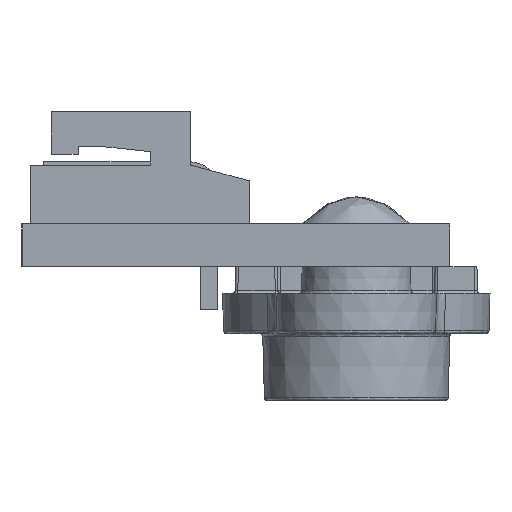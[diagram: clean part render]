
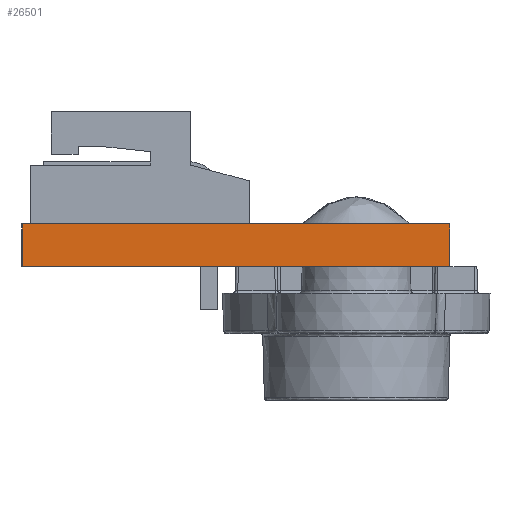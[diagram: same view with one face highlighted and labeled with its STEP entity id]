
A CAD part, left-side view. The second image highlights one B-rep face of the part: STEP entity #26501.
In plain terms, the highlighted planar face has unit normal (-1, 0, 0) as drawn and (1, 0, 0) by its records, which use the part's own axes.
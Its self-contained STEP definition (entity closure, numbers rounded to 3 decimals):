
#898 = VERTEX_POINT ( 'NONE', #10721 ) ;
#2692 = CARTESIAN_POINT ( 'NONE',  ( 14., 0.8, -8. ) ) ;
#3712 = ORIENTED_EDGE ( 'NONE', *, *, #22135, .F. ) ;
#4591 = DIRECTION ( 'NONE',  ( 0., 0., 1. ) ) ;
#4712 = CARTESIAN_POINT ( 'NONE',  ( 14., 0., 8. ) ) ;
#5015 = CARTESIAN_POINT ( 'NONE',  ( 14., 0., 0. ) ) ;
#6004 = ORIENTED_EDGE ( 'NONE', *, *, #16782, .T. ) ;
#8945 = VECTOR ( 'NONE', #11304, 1000. ) ;
#9641 = CARTESIAN_POINT ( 'NONE',  ( 14., 1.6, 8. ) ) ;
#10721 = CARTESIAN_POINT ( 'NONE',  ( 14., 1.6, -8. ) ) ;
#11304 = DIRECTION ( 'NONE',  ( 0., 1., 0. ) ) ;
#11680 = AXIS2_PLACEMENT_3D ( 'NONE', #25978, #21209, #4591 ) ;
#12300 = CARTESIAN_POINT ( 'NONE',  ( 14., 1.6, 8. ) ) ;
#12349 = EDGE_LOOP ( 'NONE', ( #6004, #12406, #24595, #3712 ) ) ;
#12406 = ORIENTED_EDGE ( 'NONE', *, *, #27352, .F. ) ;
#13461 = LINE ( 'NONE', #2692, #8945 ) ;
#13667 = DIRECTION ( 'NONE',  ( 0., 0., 1. ) ) ;
#16782 = EDGE_CURVE ( 'NONE', #21318, #898, #13461, .T. ) ;
#18334 = VECTOR ( 'NONE', #23725, 1000. ) ;
#18561 = VERTEX_POINT ( 'NONE', #12300 ) ;
#19659 = CARTESIAN_POINT ( 'NONE',  ( 14., 0., -8. ) ) ;
#20317 = LINE ( 'NONE', #9641, #23346 ) ;
#20455 = DIRECTION ( 'NONE',  ( 0., 0., -1. ) ) ;
#20679 = LINE ( 'NONE', #27011, #18334 ) ;
#21209 = DIRECTION ( 'NONE',  ( -1., 0., 0. ) ) ;
#21318 = VERTEX_POINT ( 'NONE', #19659 ) ;
#22135 = EDGE_CURVE ( 'NONE', #21318, #23528, #26680, .T. ) ;
#23346 = VECTOR ( 'NONE', #20455, 1000. ) ;
#23528 = VERTEX_POINT ( 'NONE', #4712 ) ;
#23725 = DIRECTION ( 'NONE',  ( 0., -1., 0. ) ) ;
#23994 = PLANE ( 'NONE',  #11680 ) ;
#24595 = ORIENTED_EDGE ( 'NONE', *, *, #25214, .T. ) ;
#25214 = EDGE_CURVE ( 'NONE', #18561, #23528, #20679, .T. ) ;
#25564 = FACE_OUTER_BOUND ( 'NONE', #12349, .T. ) ;
#25790 = VECTOR ( 'NONE', #13667, 1000. ) ;
#25978 = CARTESIAN_POINT ( 'NONE',  ( 14., 1.6, 8. ) ) ;
#26501 = ADVANCED_FACE ( 'NONE', ( #25564 ), #23994, .F. ) ;
#26680 = LINE ( 'NONE', #5015, #25790 ) ;
#27011 = CARTESIAN_POINT ( 'NONE',  ( 14., 1.6, 8. ) ) ;
#27352 = EDGE_CURVE ( 'NONE', #18561, #898, #20317, .T. ) ;
